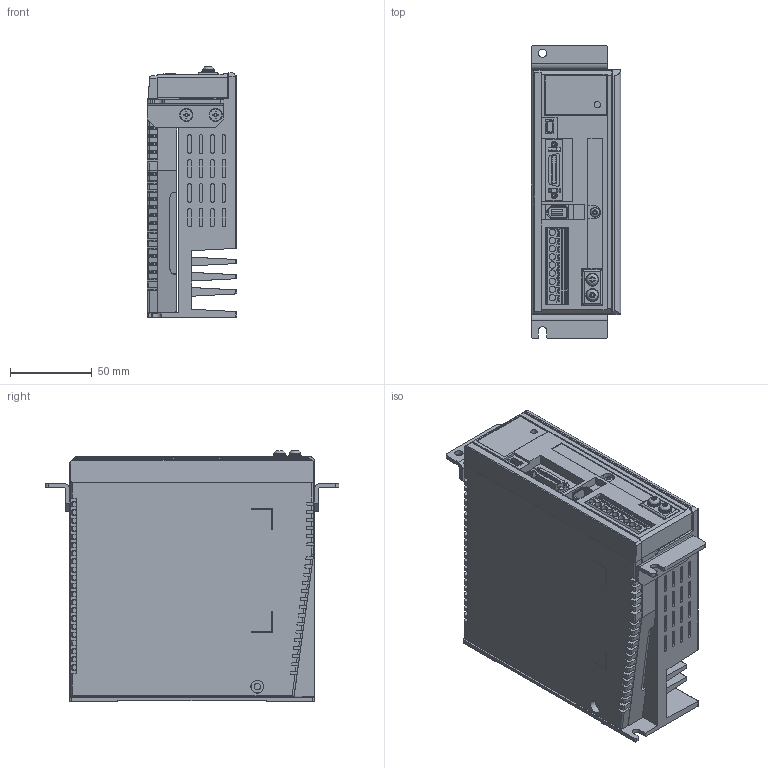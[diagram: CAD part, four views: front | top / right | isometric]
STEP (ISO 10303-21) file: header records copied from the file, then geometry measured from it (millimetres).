
FILE_DESCRIPTION( ( 'STEP AP214' ), '1' );
FILE_NAME( 'p:/temp/worker_778/temp/exporttempdir_3440_162_rXYL5/format_0/MBDJT2207.stp', '2020-04-27T15:09:00', ( 'License CC BY-ND 4.0' ), ( 'CADENAS' ), ' ', 'PARTsolutions', ' ' );
FILE_SCHEMA( ( 'AUTOMOTIVE_DESIGN { 1 0 10303 214 1 1 1 1 }' ) );
Length unit declared in the file: millimetre
Products named in the file (1): _MBDJT2207
Bounding box: 55 x 180 x 153.6 mm (x, y, z)
Volume: 1061290.6 mm3; surface area: 171810 mm2
Topology: 1 solids, 1 shells, 1452 faces, 3983 edges, 2642 vertices
Faces by surface type: plane 1045, cylinder 395, cone 8, bspline 2, torus 2
Full cylindrical faces by diameter (mm): 2.013 x2, 3.8 x2, 3.9 x1, 4 x10, 5.2 x3, 5.31 x1, 5.8 x1, 7 x2, 7.1 x2, 7.4 x4, 8 x3
Entity records: 57438 total; most frequent: CARTESIAN_POINT 8409, ORIENTED_EDGE 7862, DIRECTION 7578, EDGE_CURVE 3931, LINE 3074, VECTOR 3074, VERTEX_POINT 2635, AXIS2_PLACEMENT_3D 2252
